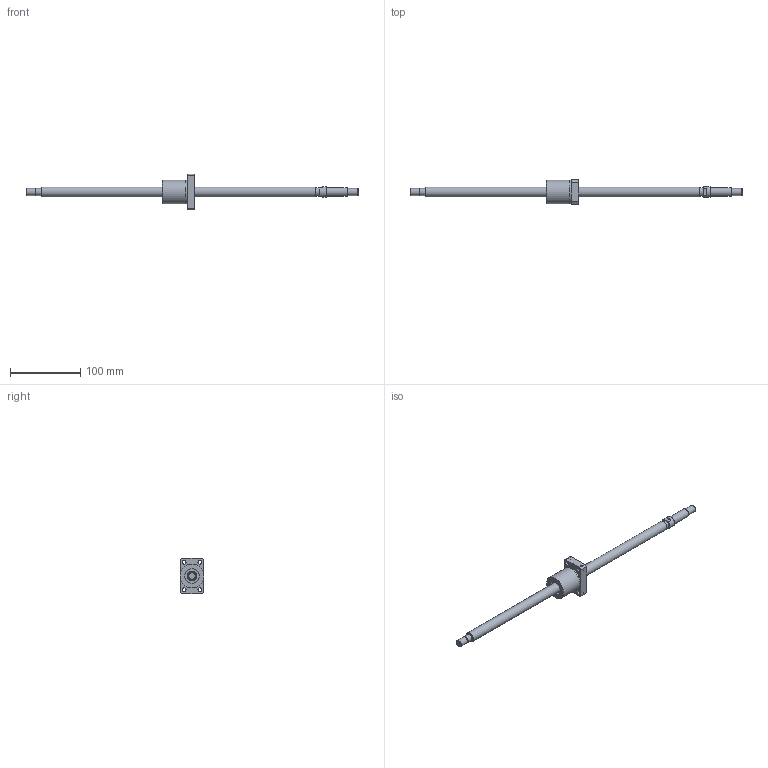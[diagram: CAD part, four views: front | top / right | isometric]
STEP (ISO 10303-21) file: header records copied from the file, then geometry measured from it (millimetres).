
FILE_DESCRIPTION(/* description */ ('STEP AP203'),/* implementation_level */ '2;1');
FILE_NAME(/* name */ 'BNK1408-2.5RRG0+471LC5Y(217.50)',/* time_stamp */ '2024-07-09T09:17:16+02:00',/* author */ ('License CC BY-ND 4.0'),/* organization */ ('CADENAS'),/* preprocessor_version */ 'ST-DEVELOPER v19.3',/* originating_system */ 'PARTsolutions',/* authorisation */ ' ');
FILE_SCHEMA (('CONFIG_CONTROL_DESIGN'));
Length unit declared in the file: millimetre
Products named in the file (3): BNK1408-2.5RRG0+471LC5Y(217.50); BNK 1408-2.5RRG0+471LC5Y Shaft; BNK 1408-2.5RRG0+471LC5YRR0 Nut
Assembly tree (2 placements, depth 2):
  BNK1408-2.5RRG0+471LC5Y(217.50)
    BNK 1408-2.5RRG0+471LC5Y Shaft
    BNK 1408-2.5RRG0+471LC5YRR0 Nut
Bounding box: 471 x 34 x 50 mm (x, y, z)
Volume: 107094.5 mm3; surface area: 32361.9 mm2
Topology: 2 solids, 2 shells, 74 faces, 159 edges, 102 vertices
Faces by surface type: plane 28, cylinder 27, cone 17, torus 2
Full cylindrical faces by diameter (mm): 4.917 x2, 5.5 x4, 9.5 x4, 9.6 x1, 10 x3, 12 x2, 14 x2, 15 x1, 21 x2, 33.4 x1, 34 x1
Entity records: 1940 total; most frequent: CARTESIAN_POINT 349, DIRECTION 336, ORIENTED_EDGE 242, AXIS2_PLACEMENT_3D 155, FACE_BOUND 134, EDGE_LOOP 133, EDGE_CURVE 121, VERTEX_POINT 99
